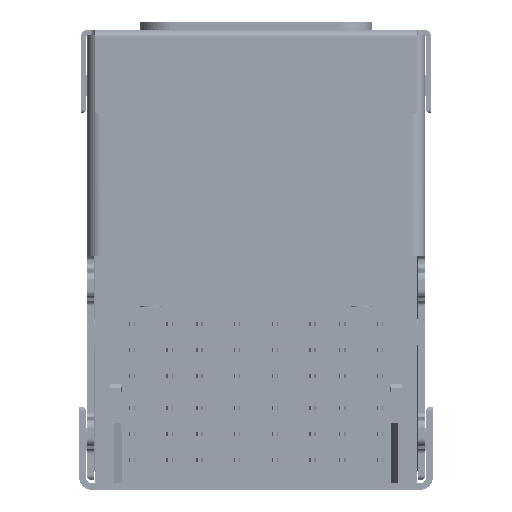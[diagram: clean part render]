
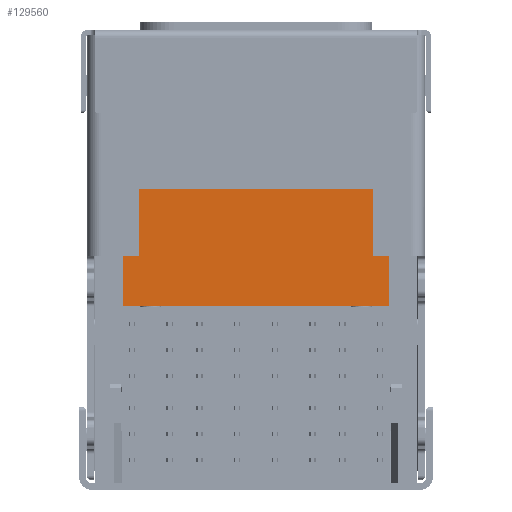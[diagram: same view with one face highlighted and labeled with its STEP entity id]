
A CAD part, front view. The second image highlights one B-rep face of the part: STEP entity #129560.
In plain terms, the highlighted planar face has unit normal (0, -1, 0).
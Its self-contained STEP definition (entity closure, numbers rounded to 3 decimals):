
#1881 = CARTESIAN_POINT ( 'NONE',  ( 5.1, -7.925, -9.585 ) ) ;
#2027 = LINE ( 'NONE', #148494, #223561 ) ;
#4428 = ORIENTED_EDGE ( 'NONE', *, *, #205850, .T. ) ;
#9755 = LINE ( 'NONE', #225906, #187421 ) ;
#13274 = CARTESIAN_POINT ( 'NONE',  ( 5.1, -7.925, -9.585 ) ) ;
#14575 = EDGE_CURVE ( 'NONE', #193755, #125838, #77455, .T. ) ;
#20790 = DIRECTION ( 'NONE',  ( -1., 0., 0. ) ) ;
#24412 = DIRECTION ( 'NONE',  ( -1., 0., 0. ) ) ;
#29557 = LINE ( 'NONE', #157120, #232976 ) ;
#32419 = EDGE_CURVE ( 'NONE', #193755, #184720, #9755, .T. ) ;
#37722 = CARTESIAN_POINT ( 'NONE',  ( -4.5, -7.925, -7.65 ) ) ;
#44521 = VERTEX_POINT ( 'NONE', #199601 ) ;
#53039 = EDGE_CURVE ( 'NONE', #212549, #183110, #198361, .T. ) ;
#59996 = DIRECTION ( 'NONE',  ( 0., 0., 1. ) ) ;
#61770 = DIRECTION ( 'NONE',  ( 0., 0., 1. ) ) ;
#77455 = LINE ( 'NONE', #1881, #154576 ) ;
#78180 = VECTOR ( 'NONE', #59996, 1000. ) ;
#78316 = LINE ( 'NONE', #224734, #176116 ) ;
#80641 = CARTESIAN_POINT ( 'NONE',  ( 0., -7.925, -7.332 ) ) ;
#81575 = VECTOR ( 'NONE', #147552, 1000. ) ;
#104183 = FACE_OUTER_BOUND ( 'NONE', #211350, .T. ) ;
#106536 = CARTESIAN_POINT ( 'NONE',  ( -4.5, -7.925, -7.65 ) ) ;
#110130 = VERTEX_POINT ( 'NONE', #216613 ) ;
#114367 = ORIENTED_EDGE ( 'NONE', *, *, #169692, .F. ) ;
#117802 = CARTESIAN_POINT ( 'NONE',  ( -5.1, -7.925, -9.585 ) ) ;
#120505 = DIRECTION ( 'NONE',  ( 0., 0., -1. ) ) ;
#123080 = ORIENTED_EDGE ( 'NONE', *, *, #53039, .T. ) ;
#124853 = VERTEX_POINT ( 'NONE', #151309 ) ;
#125838 = VERTEX_POINT ( 'NONE', #217593 ) ;
#126550 = CARTESIAN_POINT ( 'NONE',  ( 5.1, -7.925, -7.65 ) ) ;
#129560 = ADVANCED_FACE ( 'NONE', ( #104183 ), #175062, .F. ) ;
#132940 = ORIENTED_EDGE ( 'NONE', *, *, #14575, .F. ) ;
#139609 = DIRECTION ( 'NONE',  ( 0., 1., 0. ) ) ;
#142941 = CARTESIAN_POINT ( 'NONE',  ( -5.1, -7.925, -7.65 ) ) ;
#146583 = DIRECTION ( 'NONE',  ( -1., 0., 0. ) ) ;
#147552 = DIRECTION ( 'NONE',  ( -1., 0., 0. ) ) ;
#148494 = CARTESIAN_POINT ( 'NONE',  ( 4.5, -7.925, -5.08 ) ) ;
#148910 = LINE ( 'NONE', #126550, #203403 ) ;
#151309 = CARTESIAN_POINT ( 'NONE',  ( -4.5, -7.925, -5.08 ) ) ;
#153847 = DIRECTION ( 'NONE',  ( 1., 0., 0. ) ) ;
#154576 = VECTOR ( 'NONE', #20790, 1000. ) ;
#155046 = DIRECTION ( 'NONE',  ( 0., 0., 1. ) ) ;
#155130 = EDGE_CURVE ( 'NONE', #184720, #110130, #148910, .T. ) ;
#156147 = ORIENTED_EDGE ( 'NONE', *, *, #32419, .T. ) ;
#157120 = CARTESIAN_POINT ( 'NONE',  ( -4.5, -7.925, -5.08 ) ) ;
#169692 = EDGE_CURVE ( 'NONE', #125838, #183110, #222953, .T. ) ;
#175062 = PLANE ( 'NONE',  #182255 ) ;
#176116 = VECTOR ( 'NONE', #155046, 1000. ) ;
#182255 = AXIS2_PLACEMENT_3D ( 'NONE', #80641, #139609, #153847 ) ;
#183110 = VERTEX_POINT ( 'NONE', #142941 ) ;
#184720 = VERTEX_POINT ( 'NONE', #221880 ) ;
#187421 = VECTOR ( 'NONE', #61770, 1000. ) ;
#193130 = ORIENTED_EDGE ( 'NONE', *, *, #212802, .T. ) ;
#193755 = VERTEX_POINT ( 'NONE', #13274 ) ;
#198361 = LINE ( 'NONE', #37722, #81575 ) ;
#199601 = CARTESIAN_POINT ( 'NONE',  ( 4.5, -7.925, -5.08 ) ) ;
#203403 = VECTOR ( 'NONE', #146583, 1000. ) ;
#205850 = EDGE_CURVE ( 'NONE', #110130, #44521, #78316, .T. ) ;
#211350 = EDGE_LOOP ( 'NONE', ( #214154, #193130, #123080, #114367, #132940, #156147, #214835, #4428 ) ) ;
#212549 = VERTEX_POINT ( 'NONE', #106536 ) ;
#212802 = EDGE_CURVE ( 'NONE', #124853, #212549, #29557, .T. ) ;
#214154 = ORIENTED_EDGE ( 'NONE', *, *, #232277, .T. ) ;
#214835 = ORIENTED_EDGE ( 'NONE', *, *, #155130, .T. ) ;
#216613 = CARTESIAN_POINT ( 'NONE',  ( 4.5, -7.925, -7.65 ) ) ;
#217593 = CARTESIAN_POINT ( 'NONE',  ( -5.1, -7.925, -9.585 ) ) ;
#221880 = CARTESIAN_POINT ( 'NONE',  ( 5.1, -7.925, -7.65 ) ) ;
#222953 = LINE ( 'NONE', #117802, #78180 ) ;
#223561 = VECTOR ( 'NONE', #24412, 1000. ) ;
#224734 = CARTESIAN_POINT ( 'NONE',  ( 4.5, -7.925, -7.65 ) ) ;
#225906 = CARTESIAN_POINT ( 'NONE',  ( 5.1, -7.925, -9.585 ) ) ;
#232277 = EDGE_CURVE ( 'NONE', #44521, #124853, #2027, .T. ) ;
#232976 = VECTOR ( 'NONE', #120505, 1000. ) ;
